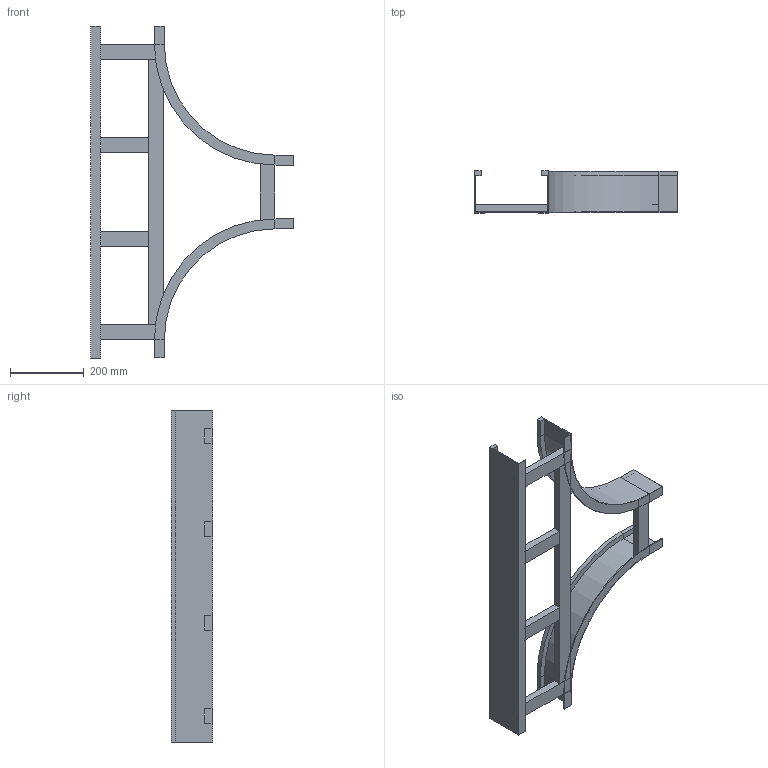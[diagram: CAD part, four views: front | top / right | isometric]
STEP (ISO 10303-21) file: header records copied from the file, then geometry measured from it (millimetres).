
FILE_DESCRIPTION (( 'STEP AP214' ), '1' );
FILE_NAME ('B2_15B3J200.step', '2025-02-21T15:51:56', ( '' ), ( '' ), 'SwSTEP 2.0', 'SolidWorks 2023', '' );
FILE_SCHEMA (( 'AUTOMOTIVE_DESIGN' ));
Length unit declared in the file: millimetre
Products named in the file (6): B2_TRAVERSINO_LONG._R300+200; TRAVERSINO_200; B2_LONGH.INTERNO 90°_H112.5_R300; B2_LONGH.RETT_H112.5_R300+200; TRAVERSINO_INTERMEDIO_R300+200; B2_15B3J200
Assembly tree (9 placements, depth 2):
  B2_15B3J200
    B2_LONGH.INTERNO 90°_H112.5_R300  x2
    B2_LONGH.RETT_H112.5_R300+200
    TRAVERSINO_200  x3
    B2_TRAVERSINO_LONG._R300+200
    TRAVERSINO_INTERMEDIO_R300+200  x2
Bounding box: 550 x 112.5 x 900 mm (x, y, z)
Volume: 2273433.5 mm3; surface area: 848273.2 mm2
Topology: 9 solids, 9 shells, 98 faces, 208 edges, 128 vertices
Faces by surface type: plane 90, cylinder 8
Entity records: 1639 total; most frequent: DIRECTION 256, CARTESIAN_POINT 254, ORIENTED_EDGE 232, EDGE_CURVE 116, VECTOR 108, LINE 108, AXIS2_PLACEMENT_3D 74, VERTEX_POINT 72
